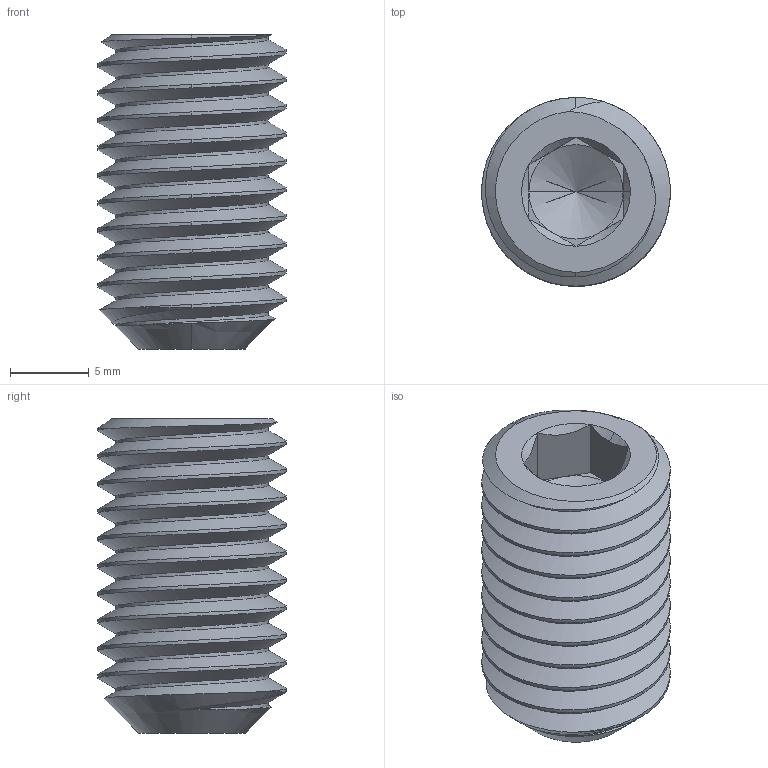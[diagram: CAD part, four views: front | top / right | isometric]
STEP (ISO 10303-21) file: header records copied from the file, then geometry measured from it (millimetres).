
FILE_DESCRIPTION (( 'STEP AP203' ), '1' );
FILE_NAME ('Cup-Point Set Screw 12x20.STEP', '2025-09-25T16:37:38', ( '' ), ( '' ), 'SwSTEP 2.0', 'SolidWorks 2024', '' );
FILE_SCHEMA (( 'CONFIG_CONTROL_DESIGN' ));
Length unit declared in the file: millimetre
Products named in the file (1): Cup-Point Set Screw 12x20
Bounding box: 11.98 x 12 x 20 mm (x, y, z)
Volume: 1636.6 mm3; surface area: 1353.4 mm2
Topology: 1 solids, 1 shells, 53 faces, 132 edges, 78 vertices
Faces by surface type: cylinder 21, cone 16, plane 13, bspline 3
Entity records: 3993 total; most frequent: CARTESIAN_POINT 2846, ORIENTED_EDGE 256, DIRECTION 189, EDGE_CURVE 128, VERTEX_POINT 78, AXIS2_PLACEMENT_3D 71, EDGE_LOOP 54, FACE_OUTER_BOUND 53
